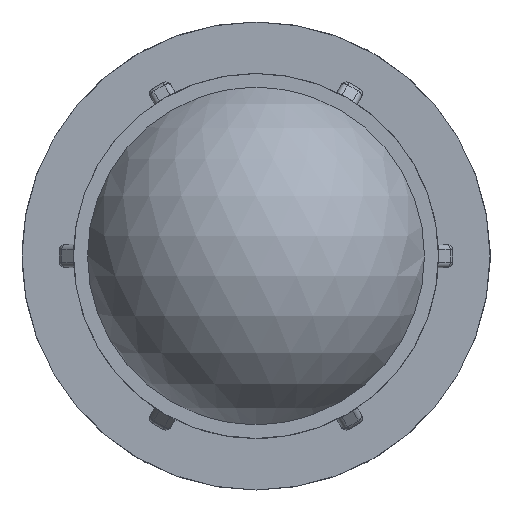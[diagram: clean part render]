
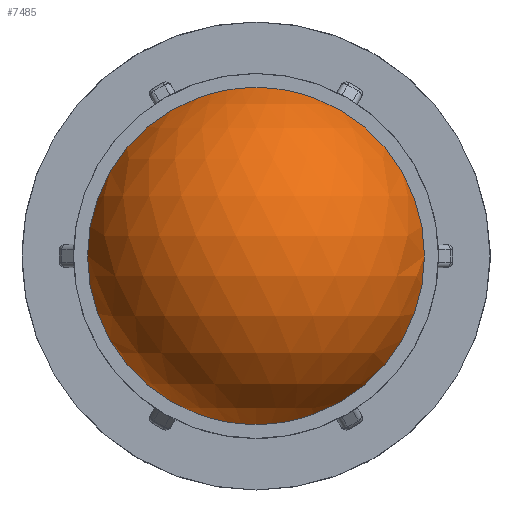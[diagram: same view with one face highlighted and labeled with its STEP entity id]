
A CAD part, left-side view. The second image highlights one B-rep face of the part: STEP entity #7485.
In plain terms, the highlighted spherical face has radius 39.265 mm.
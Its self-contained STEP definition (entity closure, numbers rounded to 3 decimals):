
#15=SPHERICAL_SURFACE('',#8399,39.265);
#929=FACE_OUTER_BOUND('',#1398,.T.);
#1398=EDGE_LOOP('',(#6785));
#2811=CIRCLE('',#8400,37.8);
#3482=VERTEX_POINT('',#14444);
#4601=EDGE_CURVE('',#3482,#3482,#2811,.T.);
#6785=ORIENTED_EDGE('',*,*,#4601,.F.);
#7485=ADVANCED_FACE('',(#929),#15,.T.);
#8399=AXIS2_PLACEMENT_3D('',#14443,#10671,#10672);
#8400=AXIS2_PLACEMENT_3D('',#14445,#10673,#10674);
#10671=DIRECTION('center_axis',(0.,0.,1.));
#10672=DIRECTION('ref_axis',(1.,0.,0.));
#10673=DIRECTION('center_axis',(1.,0.,0.));
#10674=DIRECTION('ref_axis',(0.,0.,-1.));
#14443=CARTESIAN_POINT('Origin',(39.265,0.,0.));
#14444=CARTESIAN_POINT('',(28.64,37.8,0.));
#14445=CARTESIAN_POINT('Origin',(28.64,0.,0.));
